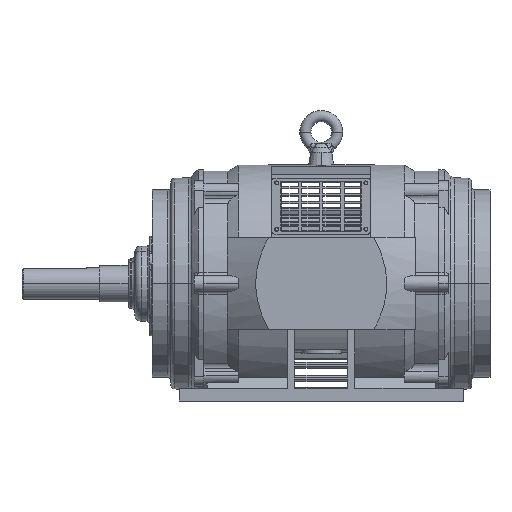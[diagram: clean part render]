
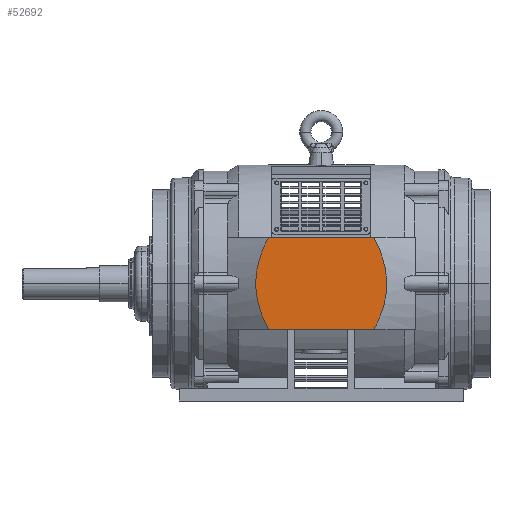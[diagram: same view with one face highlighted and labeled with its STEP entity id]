
A CAD part, top view. The second image highlights one B-rep face of the part: STEP entity #52692.
In plain terms, the highlighted planar face has unit normal (0, 0, 1).
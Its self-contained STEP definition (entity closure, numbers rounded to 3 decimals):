
#5367 = VERTEX_POINT ( 'NONE', #57259 ) ;
#5368 = VERTEX_POINT ( 'NONE', #57260 ) ;
#5509 = VERTEX_POINT ( 'NONE', #57341 ) ;
#5535 = VERTEX_POINT ( 'NONE', #57358 ) ;
#5952 = ORIENTED_EDGE ( 'NONE', *, *, #62394, .F. ) ;
#6229 = ORIENTED_EDGE ( 'NONE', *, *, #62287, .F. ) ;
#6310 = ORIENTED_EDGE ( 'NONE', *, *, #52312, .F. ) ;
#6506 = ORIENTED_EDGE ( 'NONE', *, *, #62423, .F. ) ;
#16813 = LINE ( 'NONE', #16818, #62900 ) ;
#16818 = CARTESIAN_POINT ( 'NONE',  ( -176.044, 52.258, 203.443 ) ) ;
#16821 = DIRECTION ( 'NONE',  ( 1., 0., 0. ) ) ;
#20898 = CARTESIAN_POINT ( 'NONE',  ( -173.705, 53.258, 203.443 ) ) ;
#20900 = FACE_OUTER_BOUND ( 'NONE', #51977, .T. ) ;
#20955 = PLANE ( 'NONE',  #63572 ) ;
#20961 = DIRECTION ( 'NONE',  ( 0., 0., 1. ) ) ;
#20963 = DIRECTION ( 'NONE',  ( 1., 0., 0. ) ) ;
#40894 = VECTOR ( 'NONE', #48177, 1000. ) ;
#48164 = LINE ( 'NONE', #48176, #40894 ) ;
#48176 = CARTESIAN_POINT ( 'NONE',  ( -173.705, -87.742, 203.443 ) ) ;
#48177 = DIRECTION ( 'NONE',  ( -1., 0., 0. ) ) ;
#48627 = CARTESIAN_POINT ( 'NONE',  ( 46.11, 52.258, 203.443 ) ) ;
#48635 = CARTESIAN_POINT ( 'NONE',  ( 49.031, 46.872, 203.443 ) ) ;
#48651 = CARTESIAN_POINT ( 'NONE',  ( 51.717, 41.376, 203.443 ) ) ;
#48652 = CARTESIAN_POINT ( 'NONE',  ( 55.31, 32.926, 203.443 ) ) ;
#48653 = CARTESIAN_POINT ( 'NONE',  ( 56.436, 30.071, 203.443 ) ) ;
#48654 = CARTESIAN_POINT ( 'NONE',  ( 58.515, 24.315, 203.443 ) ) ;
#48655 = CARTESIAN_POINT ( 'NONE',  ( 59.47, 21.411, 203.443 ) ) ;
#48656 = CARTESIAN_POINT ( 'NONE',  ( 61.193, 15.548, 203.443 ) ) ;
#48657 = CARTESIAN_POINT ( 'NONE',  ( 61.962, 12.588, 203.443 ) ) ;
#48658 = CARTESIAN_POINT ( 'NONE',  ( 62.964, 8.103, 203.443 ) ) ;
#48659 = CARTESIAN_POINT ( 'NONE',  ( 63.273, 6.6, 203.443 ) ) ;
#48660 = CARTESIAN_POINT ( 'NONE',  ( 63.837, 3.59, 203.443 ) ) ;
#48661 = CARTESIAN_POINT ( 'NONE',  ( 64.092, 2.082, 203.443 ) ) ;
#48662 = CARTESIAN_POINT ( 'NONE',  ( 64.775, -2.454, 203.443 ) ) ;
#48663 = CARTESIAN_POINT ( 'NONE',  ( 65.121, -5.491, 203.443 ) ) ;
#48664 = CARTESIAN_POINT ( 'NONE',  ( 65.584, -11.595, 203.443 ) ) ;
#48665 = CARTESIAN_POINT ( 'NONE',  ( 65.701, -14.665, 203.443 ) ) ;
#48666 = CARTESIAN_POINT ( 'NONE',  ( 65.702, -20.784, 203.443 ) ) ;
#48667 = CARTESIAN_POINT ( 'NONE',  ( 65.587, -23.839, 203.443 ) ) ;
#48668 = CARTESIAN_POINT ( 'NONE',  ( 65.241, -28.414, 203.443 ) ) ;
#48669 = CARTESIAN_POINT ( 'NONE',  ( 65.098, -29.938, 203.443 ) ) ;
#48670 = CARTESIAN_POINT ( 'NONE',  ( 64.754, -32.983, 203.443 ) ) ;
#48671 = CARTESIAN_POINT ( 'NONE',  ( 64.553, -34.504, 203.443 ) ) ;
#48672 = CARTESIAN_POINT ( 'NONE',  ( 63.87, -39.047, 203.443 ) ) ;
#48673 = CARTESIAN_POINT ( 'NONE',  ( 63.306, -42.053, 203.443 ) ) ;
#48674 = CARTESIAN_POINT ( 'NONE',  ( 62.307, -46.53, 203.443 ) ) ;
#48675 = CARTESIAN_POINT ( 'NONE',  ( 61.948, -48.018, 203.443 ) ) ;
#48676 = CARTESIAN_POINT ( 'NONE',  ( 61.182, -50.982, 203.443 ) ) ;
#48677 = CARTESIAN_POINT ( 'NONE',  ( 60.773, -52.46, 203.443 ) ) ;
#48678 = CARTESIAN_POINT ( 'NONE',  ( 59.478, -56.872, 203.443 ) ) ;
#48679 = CARTESIAN_POINT ( 'NONE',  ( 58.522, -59.78, 203.443 ) ) ;
#48680 = CARTESIAN_POINT ( 'NONE',  ( 56.443, -65.538, 203.443 ) ) ;
#48681 = CARTESIAN_POINT ( 'NONE',  ( 55.319, -68.388, 203.443 ) ) ;
#48682 = CARTESIAN_POINT ( 'NONE',  ( 51.722, -76.851, 203.443 ) ) ;
#48683 = CARTESIAN_POINT ( 'NONE',  ( 49.033, -82.353, 203.443 ) ) ;
#48684 = CARTESIAN_POINT ( 'NONE',  ( 46.11, -87.742, 203.443 ) ) ;
#48805 = CARTESIAN_POINT ( 'NONE',  ( -113.198, -87.742, 203.443 ) ) ;
#48806 = CARTESIAN_POINT ( 'NONE',  ( -116.129, -82.338, 203.443 ) ) ;
#48811 = CARTESIAN_POINT ( 'NONE',  ( -118.823, -76.823, 203.443 ) ) ;
#48812 = CARTESIAN_POINT ( 'NONE',  ( -122.424, -68.346, 203.443 ) ) ;
#48813 = CARTESIAN_POINT ( 'NONE',  ( -123.552, -65.482, 203.443 ) ) ;
#48814 = CARTESIAN_POINT ( 'NONE',  ( -125.635, -59.704, 203.443 ) ) ;
#48815 = CARTESIAN_POINT ( 'NONE',  ( -126.591, -56.79, 203.443 ) ) ;
#48816 = CARTESIAN_POINT ( 'NONE',  ( -128.315, -50.906, 203.443 ) ) ;
#48817 = CARTESIAN_POINT ( 'NONE',  ( -129.083, -47.937, 203.443 ) ) ;
#48818 = CARTESIAN_POINT ( 'NONE',  ( -130.084, -43.438, 203.443 ) ) ;
#48819 = CARTESIAN_POINT ( 'NONE',  ( -130.392, -41.929, 203.443 ) ) ;
#48820 = CARTESIAN_POINT ( 'NONE',  ( -130.954, -38.908, 203.443 ) ) ;
#48821 = CARTESIAN_POINT ( 'NONE',  ( -131.208, -37.394, 203.443 ) ) ;
#48822 = CARTESIAN_POINT ( 'NONE',  ( -131.886, -32.843, 203.443 ) ) ;
#48823 = CARTESIAN_POINT ( 'NONE',  ( -132.228, -29.795, 203.443 ) ) ;
#48824 = CARTESIAN_POINT ( 'NONE',  ( -132.683, -23.672, 203.443 ) ) ;
#48825 = CARTESIAN_POINT ( 'NONE',  ( -132.794, -20.589, 203.443 ) ) ;
#48826 = CARTESIAN_POINT ( 'NONE',  ( -132.778, -11.408, 203.443 ) ) ;
#48827 = CARTESIAN_POINT ( 'NONE',  ( -132.303, -5.348, 203.443 ) ) ;
#48828 = CARTESIAN_POINT ( 'NONE',  ( -130.486, 6.658, 203.443 ) ) ;
#48829 = CARTESIAN_POINT ( 'NONE',  ( -129.146, 12.605, 203.443 ) ) ;
#48830 = CARTESIAN_POINT ( 'NONE',  ( -125.679, 24.394, 203.443 ) ) ;
#48831 = CARTESIAN_POINT ( 'NONE',  ( -123.583, 30.139, 203.443 ) ) ;
#48832 = CARTESIAN_POINT ( 'NONE',  ( -118.805, 41.374, 203.443 ) ) ;
#48833 = CARTESIAN_POINT ( 'NONE',  ( -116.121, 46.867, 203.443 ) ) ;
#48834 = CARTESIAN_POINT ( 'NONE',  ( -113.198, 52.258, 203.443 ) ) ;
#51977 = EDGE_LOOP ( 'NONE', ( #5952, #6310, #6506, #6229 ) ) ;
#52312 = EDGE_CURVE ( 'NONE', #5535, #5509, #16813, .T. ) ;
#52692 = ADVANCED_FACE ( 'NONE', ( #20900 ), #20955, .T. ) ;
#57259 = CARTESIAN_POINT ( 'NONE',  ( 46.11, -87.742, 203.443 ) ) ;
#57260 = CARTESIAN_POINT ( 'NONE',  ( -113.198, -87.742, 203.443 ) ) ;
#57341 = CARTESIAN_POINT ( 'NONE',  ( 46.11, 52.258, 203.443 ) ) ;
#57358 = CARTESIAN_POINT ( 'NONE',  ( -113.198, 52.258, 203.443 ) ) ;
#62287 = EDGE_CURVE ( 'NONE', #5367, #5368, #48164, .T. ) ;
#62394 = EDGE_CURVE ( 'NONE', #5509, #5367, #69853, .T. ) ;
#62423 = EDGE_CURVE ( 'NONE', #5368, #5535, #69873, .T. ) ;
#62900 = VECTOR ( 'NONE', #16821, 1000. ) ;
#63572 = AXIS2_PLACEMENT_3D ( 'NONE', #20898, #20961, #20963 ) ;
#69853 = B_SPLINE_CURVE_WITH_KNOTS ( 'NONE', 3,
 ( #48627, #48635, #48651, #48652, #48653, #48654, #48655, #48656, #48657, #48658, #48659, #48660, #48661, #48662, #48663, #48664, #48665, #48666, #48667, #48668, #48669, #48670, #48671, #48672, #48673, #48674, #48675, #48676, #48677, #48678, #48679, #48680, #48681, #48682, #48683, #48684 ),
 .UNSPECIFIED., .F., .F.,
 ( 4, 2, 2, 2, 2, 2, 2, 2, 2, 2, 2, 2, 2, 2, 2, 2, 2, 4 ),
 ( 0.001, 0.019, 0.029, 0.038, 0.047, 0.052, 0.056, 0.065, 0.075, 0.084, 0.088, 0.093, 0.102, 0.107, 0.111, 0.12, 0.13, 0.148 ),
 .UNSPECIFIED. ) ;
#69873 = B_SPLINE_CURVE_WITH_KNOTS ( 'NONE', 3,
 ( #48805, #48806, #48811, #48812, #48813, #48814, #48815, #48816, #48817, #48818, #48819, #48820, #48821, #48822, #48823, #48824, #48825, #48826, #48827, #48828, #48829, #48830, #48831, #48832, #48833, #48834 ),
 .UNSPECIFIED., .F., .F.,
 ( 4, 2, 2, 2, 2, 2, 2, 2, 2, 2, 2, 2, 4 ),
 ( 0., 0.018, 0.028, 0.037, 0.046, 0.051, 0.055, 0.064, 0.074, 0.092, 0.11, 0.129, 0.147 ),
 .UNSPECIFIED. ) ;
